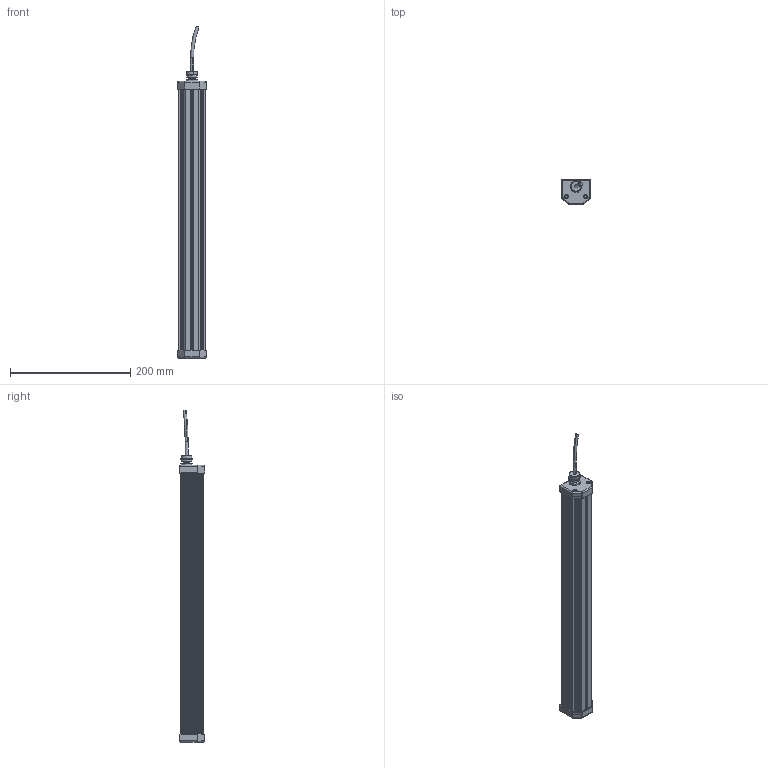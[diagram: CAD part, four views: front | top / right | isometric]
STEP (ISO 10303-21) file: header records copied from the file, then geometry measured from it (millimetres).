
FILE_DESCRIPTION (( 'STEP AP214' ), '1' );
FILE_NAME ('Stableuchte_450mm.STEP', '2021-09-08T08:56:51', ( '' ), ( '' ), 'SwSTEP 2.0', 'SolidWorks 2021', '' );
FILE_SCHEMA (( 'AUTOMOTIVE_DESIGN' ));
Length unit declared in the file: millimetre
Products named in the file (7): Stableuchte_Endkappe_mit_Gewinde; Schraube_Lampe; Scheibe4; Stableuchte_Endkappe_anderes_Ende; Kabelanbindung; Stableuchte_450r; Stableuchte_450mm
Assembly tree (9 placements, depth 2):
  Stableuchte_450mm
    Stableuchte_450r
    Scheibe4
    Kabelanbindung
    Stableuchte_Endkappe_mit_Gewinde
    Stableuchte_Endkappe_anderes_Ende
    Schraube_Lampe  x4
Bounding box: 48 x 42 x 553.24 mm (x, y, z)
Volume: 462790 mm3; surface area: 220283.6 mm2
Topology: 9 solids, 9 shells, 512 faces, 1394 edges, 862 vertices
Faces by surface type: cylinder 227, plane 219, torus 26, cone 16, bspline 16, sphere 8
Entity records: 15849 total; most frequent: CARTESIAN_POINT 3135, DIRECTION 2588, ORIENTED_EDGE 2456, EDGE_CURVE 1228, AXIS2_PLACEMENT_3D 939, VERTEX_POINT 766, VECTOR 710, LINE 710
